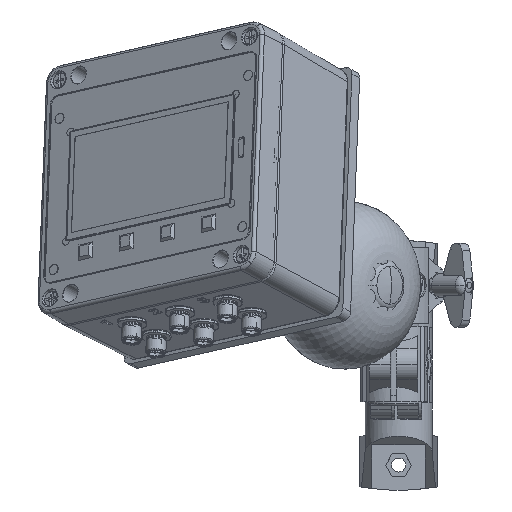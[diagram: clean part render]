
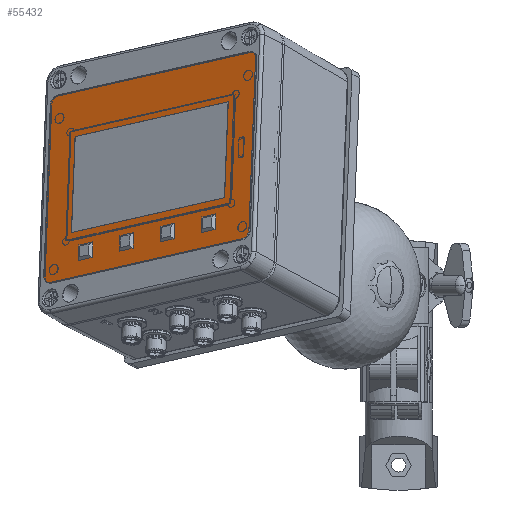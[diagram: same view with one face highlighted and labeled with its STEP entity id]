
A CAD part, top view. The second image highlights one B-rep face of the part: STEP entity #55432.
In plain terms, the highlighted planar face has unit normal (-0.579, 0.317, 0.751) as drawn and (0, 1, 0) by its records, which use the part's own axes.
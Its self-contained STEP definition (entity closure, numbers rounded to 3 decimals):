
#7923=PLANE('',#59869);
#10634=VECTOR('',#70323,1.);
#10637=VECTOR('',#70327,1.);
#10639=VECTOR('',#70330,1.);
#10640=VECTOR('',#70332,1.);
#10643=VECTOR('',#70336,1.);
#10647=VECTOR('',#70341,1.);
#10650=VECTOR('',#70345,1.);
#10652=VECTOR('',#70348,1.);
#10655=VECTOR('',#70353,1.);
#10659=VECTOR('',#70358,1.);
#10662=VECTOR('',#70362,1.);
#10664=VECTOR('',#70365,1.);
#10667=VECTOR('',#70370,1.);
#10671=VECTOR('',#70375,1.);
#10674=VECTOR('',#70379,1.);
#10676=VECTOR('',#70382,1.);
#10679=VECTOR('',#70387,1.);
#10683=VECTOR('',#70392,1.);
#10686=VECTOR('',#70396,1.);
#10688=VECTOR('',#70399,1.);
#10689=VECTOR('',#70402,1.);
#10690=VECTOR('',#70405,1.);
#10691=VECTOR('',#70408,1.);
#10692=VECTOR('',#70411,1.);
#13724=LINE('',#127030,#10634);
#13727=LINE('',#127036,#10637);
#13729=LINE('',#127040,#10639);
#13730=LINE('',#127042,#10640);
#13733=LINE('',#127049,#10643);
#13737=LINE('',#127057,#10647);
#13740=LINE('',#127063,#10650);
#13742=LINE('',#127066,#10652);
#13745=LINE('',#127074,#10655);
#13749=LINE('',#127082,#10659);
#13752=LINE('',#127088,#10662);
#13754=LINE('',#127091,#10664);
#13757=LINE('',#127099,#10667);
#13761=LINE('',#127107,#10671);
#13764=LINE('',#127113,#10674);
#13766=LINE('',#127116,#10676);
#13769=LINE('',#127124,#10679);
#13773=LINE('',#127132,#10683);
#13776=LINE('',#127138,#10686);
#13778=LINE('',#127141,#10688);
#13779=LINE('',#127144,#10689);
#13780=LINE('',#127149,#10690);
#13781=LINE('',#127153,#10691);
#13782=LINE('',#127157,#10692);
#19062=VERTEX_POINT('',#127029);
#19063=VERTEX_POINT('',#127031);
#19064=VERTEX_POINT('',#127035);
#19065=VERTEX_POINT('',#127039);
#19068=VERTEX_POINT('',#127048);
#19069=VERTEX_POINT('',#127050);
#19071=VERTEX_POINT('',#127056);
#19073=VERTEX_POINT('',#127062);
#19076=VERTEX_POINT('',#127073);
#19077=VERTEX_POINT('',#127075);
#19079=VERTEX_POINT('',#127081);
#19081=VERTEX_POINT('',#127087);
#19084=VERTEX_POINT('',#127098);
#19085=VERTEX_POINT('',#127100);
#19087=VERTEX_POINT('',#127106);
#19089=VERTEX_POINT('',#127112);
#19092=VERTEX_POINT('',#127123);
#19093=VERTEX_POINT('',#127125);
#19095=VERTEX_POINT('',#127131);
#19097=VERTEX_POINT('',#127137);
#19098=VERTEX_POINT('',#127145);
#19099=VERTEX_POINT('',#127146);
#19100=VERTEX_POINT('',#127148);
#19101=VERTEX_POINT('',#127150);
#19102=VERTEX_POINT('',#127152);
#19103=VERTEX_POINT('',#127154);
#19104=VERTEX_POINT('',#127156);
#19105=VERTEX_POINT('',#127158);
#21675=CIRCLE('',#59870,0.5);
#21676=CIRCLE('',#59871,0.5);
#21677=CIRCLE('',#59872,0.5);
#21678=CIRCLE('',#59873,0.5);
#28480=EDGE_CURVE('',#19063,#19062,#13724,.T.);
#28483=EDGE_CURVE('',#19062,#19064,#13727,.T.);
#28485=EDGE_CURVE('',#19064,#19065,#13729,.T.);
#28486=EDGE_CURVE('',#19065,#19063,#13730,.T.);
#28489=EDGE_CURVE('',#19069,#19068,#13733,.T.);
#28493=EDGE_CURVE('',#19068,#19071,#13737,.T.);
#28496=EDGE_CURVE('',#19071,#19073,#13740,.T.);
#28498=EDGE_CURVE('',#19073,#19069,#13742,.T.);
#28501=EDGE_CURVE('',#19077,#19076,#13745,.T.);
#28505=EDGE_CURVE('',#19076,#19079,#13749,.T.);
#28508=EDGE_CURVE('',#19079,#19081,#13752,.T.);
#28510=EDGE_CURVE('',#19081,#19077,#13754,.T.);
#28513=EDGE_CURVE('',#19085,#19084,#13757,.T.);
#28517=EDGE_CURVE('',#19084,#19087,#13761,.T.);
#28520=EDGE_CURVE('',#19087,#19089,#13764,.T.);
#28522=EDGE_CURVE('',#19089,#19085,#13766,.T.);
#28525=EDGE_CURVE('',#19093,#19092,#13769,.T.);
#28529=EDGE_CURVE('',#19092,#19095,#13773,.T.);
#28532=EDGE_CURVE('',#19095,#19097,#13776,.T.);
#28534=EDGE_CURVE('',#19097,#19093,#13778,.T.);
#28535=EDGE_CURVE('',#19098,#19099,#13779,.T.);
#28536=EDGE_CURVE('',#19100,#19098,#21675,.T.);
#28537=EDGE_CURVE('',#19101,#19100,#13780,.T.);
#28538=EDGE_CURVE('',#19102,#19101,#21676,.T.);
#28539=EDGE_CURVE('',#19103,#19102,#13781,.T.);
#28540=EDGE_CURVE('',#19104,#19103,#21677,.T.);
#28541=EDGE_CURVE('',#19105,#19104,#13782,.T.);
#28542=EDGE_CURVE('',#19099,#19105,#21678,.T.);
#42582=ORIENTED_EDGE('',*,*,#28480,.T.);
#42583=ORIENTED_EDGE('',*,*,#28483,.T.);
#42584=ORIENTED_EDGE('',*,*,#28485,.T.);
#42585=ORIENTED_EDGE('',*,*,#28486,.T.);
#42586=ORIENTED_EDGE('',*,*,#28535,.F.);
#42587=ORIENTED_EDGE('',*,*,#28536,.F.);
#42588=ORIENTED_EDGE('',*,*,#28537,.F.);
#42589=ORIENTED_EDGE('',*,*,#28538,.F.);
#42590=ORIENTED_EDGE('',*,*,#28539,.F.);
#42591=ORIENTED_EDGE('',*,*,#28540,.F.);
#42592=ORIENTED_EDGE('',*,*,#28541,.F.);
#42593=ORIENTED_EDGE('',*,*,#28542,.F.);
#42594=ORIENTED_EDGE('',*,*,#28525,.T.);
#42595=ORIENTED_EDGE('',*,*,#28529,.T.);
#42596=ORIENTED_EDGE('',*,*,#28532,.T.);
#42597=ORIENTED_EDGE('',*,*,#28534,.T.);
#42598=ORIENTED_EDGE('',*,*,#28513,.T.);
#42599=ORIENTED_EDGE('',*,*,#28517,.T.);
#42600=ORIENTED_EDGE('',*,*,#28520,.T.);
#42601=ORIENTED_EDGE('',*,*,#28522,.T.);
#42602=ORIENTED_EDGE('',*,*,#28501,.T.);
#42603=ORIENTED_EDGE('',*,*,#28505,.T.);
#42604=ORIENTED_EDGE('',*,*,#28508,.T.);
#42605=ORIENTED_EDGE('',*,*,#28510,.T.);
#42606=ORIENTED_EDGE('',*,*,#28489,.T.);
#42607=ORIENTED_EDGE('',*,*,#28493,.T.);
#42608=ORIENTED_EDGE('',*,*,#28496,.T.);
#42609=ORIENTED_EDGE('',*,*,#28498,.T.);
#48134=EDGE_LOOP('',(#42582,#42583,#42584,#42585));
#48135=EDGE_LOOP('',(#42586,#42587,#42588,#42589,#42590,#42591,#42592,#42593));
#48136=EDGE_LOOP('',(#42594,#42595,#42596,#42597));
#48137=EDGE_LOOP('',(#42598,#42599,#42600,#42601));
#48138=EDGE_LOOP('',(#42602,#42603,#42604,#42605));
#48139=EDGE_LOOP('',(#42606,#42607,#42608,#42609));
#51929=FACE_BOUND('',#48134,.T.);
#51930=FACE_BOUND('',#48135,.T.);
#51931=FACE_BOUND('',#48136,.T.);
#51932=FACE_BOUND('',#48137,.T.);
#51933=FACE_BOUND('',#48138,.T.);
#51934=FACE_BOUND('',#48139,.T.);
#55432=ADVANCED_FACE('',(#51929,#51930,#51931,#51932,#51933,#51934),#7923,
 .T.);
#59869=AXIS2_PLACEMENT_3D('',#127143,#70401,$);
#59870=AXIS2_PLACEMENT_3D('',#127147,#70403,#70404);
#59871=AXIS2_PLACEMENT_3D('',#127151,#70406,#70407);
#59872=AXIS2_PLACEMENT_3D('',#127155,#70409,#70410);
#59873=AXIS2_PLACEMENT_3D('',#127159,#70412,#70413);
#70323=DIRECTION('',(1.,0.,0.));
#70327=DIRECTION('',(0.,0.,1.));
#70330=DIRECTION('',(-1.,0.,0.));
#70332=DIRECTION('',(0.,0.,-1.));
#70336=DIRECTION('',(1.,0.,0.));
#70341=DIRECTION('',(0.,0.,1.));
#70345=DIRECTION('',(-1.,0.,0.));
#70348=DIRECTION('',(0.,0.,-1.));
#70353=DIRECTION('',(1.,0.,0.));
#70358=DIRECTION('',(0.,0.,1.));
#70362=DIRECTION('',(-1.,0.,0.));
#70365=DIRECTION('',(0.,0.,-1.));
#70370=DIRECTION('',(1.,0.,0.));
#70375=DIRECTION('',(0.,0.,1.));
#70379=DIRECTION('',(-1.,0.,0.));
#70382=DIRECTION('',(0.,0.,-1.));
#70387=DIRECTION('',(1.,0.,0.));
#70392=DIRECTION('',(0.,0.,1.));
#70396=DIRECTION('',(-1.,0.,0.));
#70399=DIRECTION('',(0.,0.,-1.));
#70401=DIRECTION('',(0.,1.,0.));
#70402=DIRECTION('',(1.,0.,0.));
#70403=DIRECTION('',(0.,-1.,0.));
#70404=DIRECTION('',(0.5,0.,0.));
#70405=DIRECTION('',(0.,0.,-1.));
#70406=DIRECTION('',(0.,-1.,0.));
#70407=DIRECTION('',(0.5,0.,0.));
#70408=DIRECTION('',(-1.,0.,0.));
#70409=DIRECTION('',(0.,-1.,0.));
#70410=DIRECTION('',(0.5,0.,0.));
#70411=DIRECTION('',(0.,0.,1.));
#70412=DIRECTION('',(0.,-1.,0.));
#70413=DIRECTION('',(0.5,0.,0.));
#127029=CARTESIAN_POINT('',(3.08,0.122,-5.6));
#127030=CARTESIAN_POINT('',(0.,0.122,-5.6));
#127031=CARTESIAN_POINT('',(-3.08,0.122,-5.6));
#127035=CARTESIAN_POINT('',(3.08,0.122,5.6));
#127036=CARTESIAN_POINT('',(3.08,0.122,0.));
#127039=CARTESIAN_POINT('',(-3.08,0.122,5.6));
#127040=CARTESIAN_POINT('',(0.,0.122,5.6));
#127042=CARTESIAN_POINT('',(-3.08,0.122,0.));
#127048=CARTESIAN_POINT('',(5.,0.122,1.));
#127049=CARTESIAN_POINT('',(1.125,0.122,1.));
#127050=CARTESIAN_POINT('',(4.,0.122,1.));
#127056=CARTESIAN_POINT('',(5.,0.122,2.));
#127057=CARTESIAN_POINT('',(5.,0.122,0.375));
#127062=CARTESIAN_POINT('',(4.,0.122,2.));
#127063=CARTESIAN_POINT('',(1.125,0.122,2.));
#127066=CARTESIAN_POINT('',(4.,0.122,0.375));
#127073=CARTESIAN_POINT('',(5.,0.122,-5.));
#127074=CARTESIAN_POINT('',(1.125,0.122,-5.));
#127075=CARTESIAN_POINT('',(4.,0.122,-5.));
#127081=CARTESIAN_POINT('',(5.,0.122,-4.));
#127082=CARTESIAN_POINT('',(5.,0.122,-1.125));
#127087=CARTESIAN_POINT('',(4.,0.122,-4.));
#127088=CARTESIAN_POINT('',(1.125,0.122,-4.));
#127091=CARTESIAN_POINT('',(4.,0.122,-1.125));
#127098=CARTESIAN_POINT('',(5.,0.122,-2.));
#127099=CARTESIAN_POINT('',(1.125,0.122,-2.));
#127100=CARTESIAN_POINT('',(4.,0.122,-2.));
#127106=CARTESIAN_POINT('',(5.,0.122,-1.));
#127107=CARTESIAN_POINT('',(5.,0.122,-0.375));
#127112=CARTESIAN_POINT('',(4.,0.122,-1.));
#127113=CARTESIAN_POINT('',(1.125,0.122,-1.));
#127116=CARTESIAN_POINT('',(4.,0.122,-0.375));
#127123=CARTESIAN_POINT('',(5.,0.122,4.));
#127124=CARTESIAN_POINT('',(1.125,0.122,4.));
#127125=CARTESIAN_POINT('',(4.,0.122,4.));
#127131=CARTESIAN_POINT('',(5.,0.122,5.));
#127132=CARTESIAN_POINT('',(5.,0.122,1.125));
#127137=CARTESIAN_POINT('',(4.,0.122,5.));
#127138=CARTESIAN_POINT('',(1.125,0.122,5.));
#127141=CARTESIAN_POINT('',(4.,0.122,1.125));
#127143=CARTESIAN_POINT('',(0.,0.122,0.));
#127144=CARTESIAN_POINT('',(5.5,0.122,-7.5));
#127145=CARTESIAN_POINT('',(-5.5,0.122,-7.5));
#127146=CARTESIAN_POINT('',(5.5,0.122,-7.5));
#127147=CARTESIAN_POINT('',(-5.5,0.122,-7.));
#127148=CARTESIAN_POINT('',(-6.,0.122,-7.));
#127149=CARTESIAN_POINT('',(-6.,0.122,-7.));
#127150=CARTESIAN_POINT('',(-6.,0.122,7.));
#127151=CARTESIAN_POINT('',(-5.5,0.122,7.));
#127152=CARTESIAN_POINT('',(-5.5,0.122,7.5));
#127153=CARTESIAN_POINT('',(-5.5,0.122,7.5));
#127154=CARTESIAN_POINT('',(5.5,0.122,7.5));
#127155=CARTESIAN_POINT('',(5.5,0.122,7.));
#127156=CARTESIAN_POINT('',(6.,0.122,7.));
#127157=CARTESIAN_POINT('',(6.,0.122,7.));
#127158=CARTESIAN_POINT('',(6.,0.122,-7.));
#127159=CARTESIAN_POINT('',(5.5,0.122,-7.));
